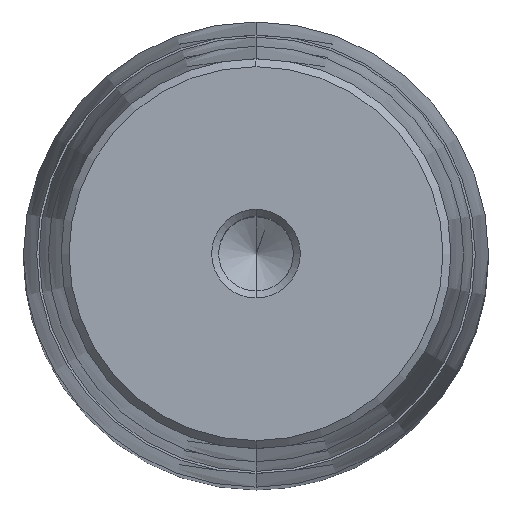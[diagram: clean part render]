
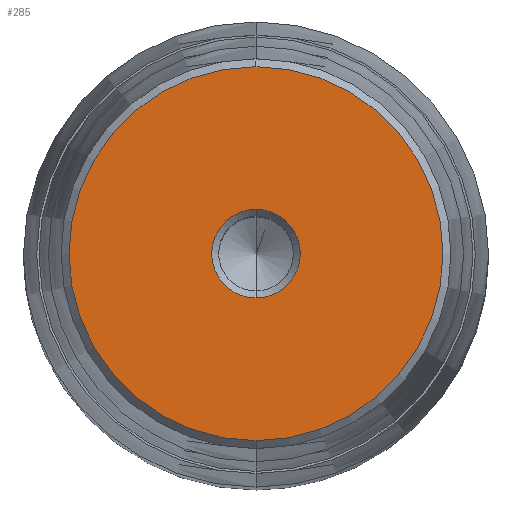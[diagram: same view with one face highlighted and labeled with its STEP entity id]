
A CAD part, top view. The second image highlights one B-rep face of the part: STEP entity #285.
In plain terms, the highlighted planar face has unit normal (0, 0, 1).
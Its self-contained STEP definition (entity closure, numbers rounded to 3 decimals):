
#164=CARTESIAN_POINT('Axis2P3D Location',(0.,0.,69.)) ;
#168=CARTESIAN_POINT('Vertex',(6.,0.,69.)) ;
#170=CARTESIAN_POINT('Vertex',(0.,-6.,69.)) ;
#173=CARTESIAN_POINT('Axis2P3D Location',(0.,0.,69.)) ;
#177=CARTESIAN_POINT('Vertex',(0.,6.,69.)) ;
#228=CARTESIAN_POINT('Axis2P3D Location',(0.,6.,69.)) ;
#233=CARTESIAN_POINT('Axis2P3D Location',(0.,0.,69.)) ;
#237=CARTESIAN_POINT('Vertex',(0.,25.325,69.)) ;
#239=CARTESIAN_POINT('Vertex',(25.325,0.,69.)) ;
#242=CARTESIAN_POINT('Axis2P3D Location',(0.,0.,69.)) ;
#246=CARTESIAN_POINT('Vertex',(-25.325,0.,69.)) ;
#249=CARTESIAN_POINT('Axis2P3D Location',(0.,0.,69.)) ;
#253=CARTESIAN_POINT('Vertex',(0.,-25.325,69.)) ;
#256=CARTESIAN_POINT('Axis2P3D Location',(0.,0.,69.)) ;
#267=CARTESIAN_POINT('Axis2P3D Location',(0.,0.,69.)) ;
#271=CARTESIAN_POINT('Vertex',(-6.,0.,69.)) ;
#274=CARTESIAN_POINT('Axis2P3D Location',(0.,0.,69.)) ;
#165=DIRECTION('Axis2P3D Direction',(0.,0.,1.)) ;
#174=DIRECTION('Axis2P3D Direction',(0.,0.,1.)) ;
#229=DIRECTION('Axis2P3D Direction',(-0.,0.,-1.)) ;
#230=DIRECTION('Axis2P3D XDirection',(0.,1.,0.)) ;
#234=DIRECTION('Axis2P3D Direction',(-0.,0.,-1.)) ;
#243=DIRECTION('Axis2P3D Direction',(-0.,0.,-1.)) ;
#250=DIRECTION('Axis2P3D Direction',(-0.,0.,-1.)) ;
#257=DIRECTION('Axis2P3D Direction',(-0.,0.,-1.)) ;
#268=DIRECTION('Axis2P3D Direction',(-0.,0.,-1.)) ;
#275=DIRECTION('Axis2P3D Direction',(-0.,0.,-1.)) ;
#166=AXIS2_PLACEMENT_3D('Circle Axis2P3D',#164,#165,$) ;
#175=AXIS2_PLACEMENT_3D('Circle Axis2P3D',#173,#174,$) ;
#231=AXIS2_PLACEMENT_3D('Plane Axis2P3D',#228,#229,#230) ;
#235=AXIS2_PLACEMENT_3D('Circle Axis2P3D',#233,#234,$) ;
#244=AXIS2_PLACEMENT_3D('Circle Axis2P3D',#242,#243,$) ;
#251=AXIS2_PLACEMENT_3D('Circle Axis2P3D',#249,#250,$) ;
#258=AXIS2_PLACEMENT_3D('Circle Axis2P3D',#256,#257,$) ;
#269=AXIS2_PLACEMENT_3D('Circle Axis2P3D',#267,#268,$) ;
#276=AXIS2_PLACEMENT_3D('Circle Axis2P3D',#274,#275,$) ;
#262=ORIENTED_EDGE('',*,*,#241,.F.) ;
#263=ORIENTED_EDGE('',*,*,#248,.F.) ;
#264=ORIENTED_EDGE('',*,*,#255,.F.) ;
#265=ORIENTED_EDGE('',*,*,#260,.F.) ;
#280=ORIENTED_EDGE('',*,*,#172,.T.) ;
#281=ORIENTED_EDGE('',*,*,#273,.T.) ;
#282=ORIENTED_EDGE('',*,*,#278,.T.) ;
#283=ORIENTED_EDGE('',*,*,#179,.T.) ;
#284=FACE_BOUND('',#279,.T.) ;
#285=ADVANCED_FACE('722-63x250x301',(#266,#284),#232,.F.) ;
#167=CIRCLE('generated circle',#166,6.) ;
#176=CIRCLE('generated circle',#175,6.) ;
#236=CIRCLE('generated circle',#235,25.325) ;
#245=CIRCLE('generated circle',#244,25.325) ;
#252=CIRCLE('generated circle',#251,25.325) ;
#259=CIRCLE('generated circle',#258,25.325) ;
#270=CIRCLE('generated circle',#269,6.) ;
#277=CIRCLE('generated circle',#276,6.) ;
#172=EDGE_CURVE('',#169,#171,#167,.F.) ;
#179=EDGE_CURVE('',#178,#169,#176,.F.) ;
#241=EDGE_CURVE('',#238,#240,#236,.T.) ;
#248=EDGE_CURVE('',#247,#238,#245,.T.) ;
#255=EDGE_CURVE('',#254,#247,#252,.T.) ;
#260=EDGE_CURVE('',#240,#254,#259,.T.) ;
#273=EDGE_CURVE('',#171,#272,#270,.T.) ;
#278=EDGE_CURVE('',#272,#178,#277,.T.) ;
#261=EDGE_LOOP('',(#262,#263,#264,#265)) ;
#279=EDGE_LOOP('',(#280,#281,#282,#283)) ;
#266=FACE_OUTER_BOUND('',#261,.T.) ;
#232=PLANE('Plane',#231) ;
#169=VERTEX_POINT('',#168) ;
#171=VERTEX_POINT('',#170) ;
#178=VERTEX_POINT('',#177) ;
#238=VERTEX_POINT('',#237) ;
#240=VERTEX_POINT('',#239) ;
#247=VERTEX_POINT('',#246) ;
#254=VERTEX_POINT('',#253) ;
#272=VERTEX_POINT('',#271) ;
